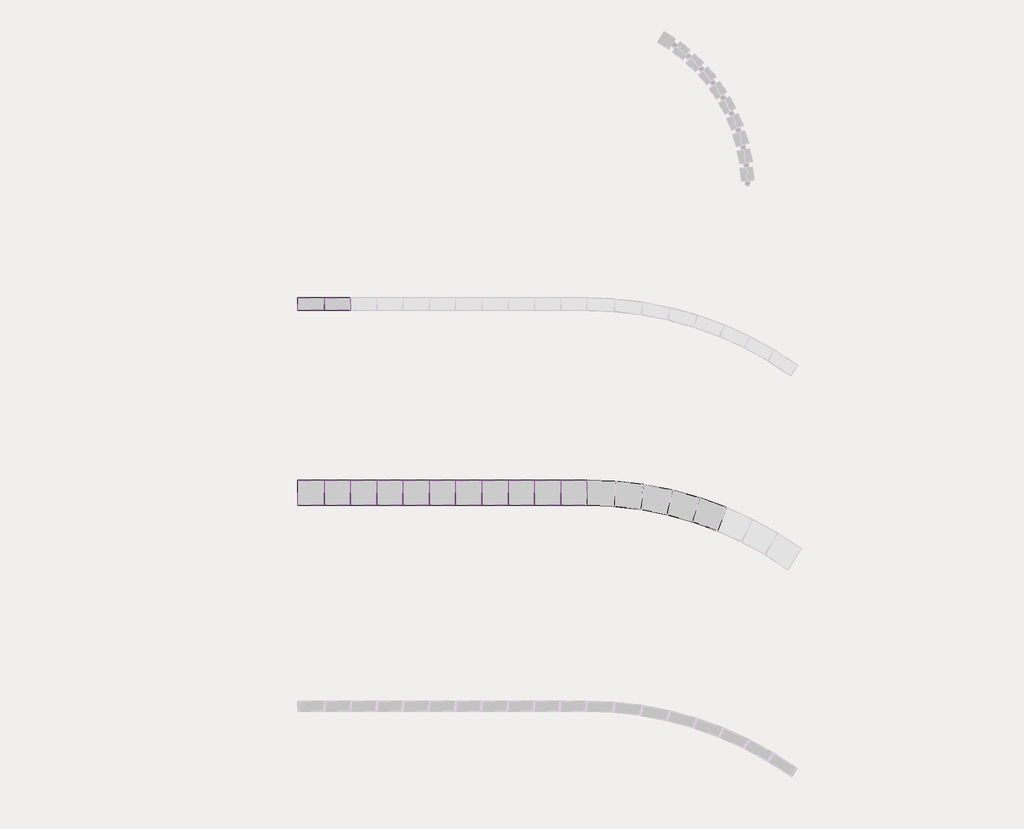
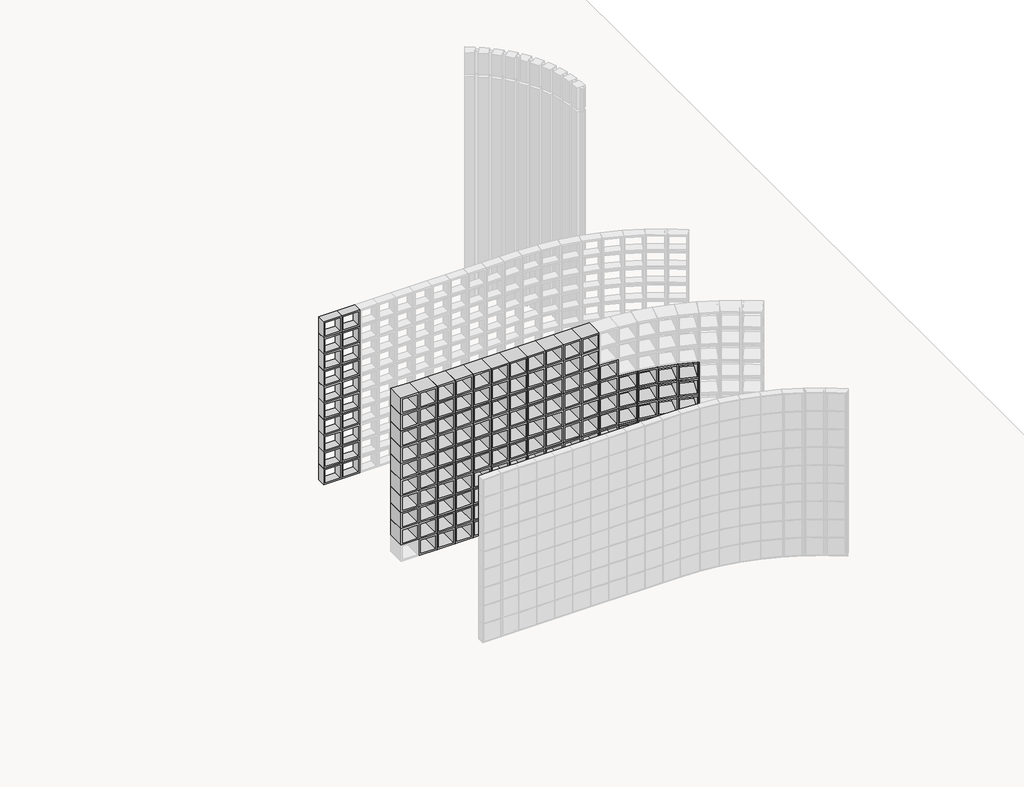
# One storey, part 7 of 15: 165 plates.
"""IFC4 building model written with IfcOpenShell, lengths in millimetres."""

from ifc_helpers import new_model, si_unit, origin, place, context, project, spatial, transform, mapped, element, save
from components import plate_64430686, plate_8b2e527d, plate_db6f8793

model = new_model("IFC4")

# Units and contexts
model_context = context("Model", 3, world=origin())
ifc_project = project(units=[si_unit("LENGTHUNIT", "METRE", prefix="MILLI")], contexts=[model_context])

# Site, building, storey
site = spatial("IfcSite", under=ifc_project)
building = spatial("IfcBuilding", under=site)
storey = spatial("IfcBuildingStorey", under=building, Name="TÉRREO", Elevation=0.0)

# Plates
placement = place(None, origin())
plate_shape = plate_64430686(model_context)
element("IfcPlate", 1, ObjectType="pnl - ELEMENTO VAZADO QUADRICULADO : e = 10", at=placement, inside=storey, context=model_context, shape_type="MappedRepresentation", body=[
    mapped(plate_shape, transform((43696.6577523, 6116.9852574, 0.0), x_axis=(1.0, 0.0, 0.0), y_axis=(0.0, 1.0, 0.0), z_axis=(0.0, 0.0, 1.0))),
])
element("IfcPlate", 2, ObjectType="pnl - ELEMENTO VAZADO QUADRICULADO : e = 10", at=placement, inside=storey, context=model_context, shape_type="MappedRepresentation", body=[
    mapped(plate_shape, transform((43905.7486614, 6116.9852574, 0.0), x_axis=(1.0, 0.0, 0.0), y_axis=(0.0, 1.0, 0.0), z_axis=(0.0, 0.0, 1.0))),
])
element("IfcPlate", 3, ObjectType="pnl - ELEMENTO VAZADO QUADRICULADO : e = 10", at=placement, inside=storey, context=model_context, shape_type="MappedRepresentation", body=[
    mapped(plate_shape, transform((43696.6577523, 6116.9852574, 200.0), x_axis=(1.0, 0.0, 0.0), y_axis=(0.0, 1.0, 0.0), z_axis=(0.0, 0.0, 1.0))),
])
element("IfcPlate", 4, ObjectType="pnl - ELEMENTO VAZADO QUADRICULADO : e = 10", at=placement, inside=storey, context=model_context, shape_type="MappedRepresentation", body=[
    mapped(plate_shape, transform((43905.7486614, 6116.9852574, 200.0), x_axis=(1.0, 0.0, 0.0), y_axis=(0.0, 1.0, 0.0), z_axis=(0.0, 0.0, 1.0))),
])
element("IfcPlate", 5, ObjectType="pnl - ELEMENTO VAZADO QUADRICULADO : e = 10", at=placement, inside=storey, context=model_context, shape_type="MappedRepresentation", body=[
    mapped(plate_shape, transform((43696.6577523, 6116.9852574, 400.0), x_axis=(1.0, 0.0, 0.0), y_axis=(0.0, 1.0, 0.0), z_axis=(0.0, 0.0, 1.0))),
])
element("IfcPlate", 6, ObjectType="pnl - ELEMENTO VAZADO QUADRICULADO : e = 10", at=placement, inside=storey, context=model_context, shape_type="MappedRepresentation", body=[
    mapped(plate_shape, transform((43905.7486614, 6116.9852574, 400.0), x_axis=(1.0, 0.0, 0.0), y_axis=(0.0, 1.0, 0.0), z_axis=(0.0, 0.0, 1.0))),
])
element("IfcPlate", 7, ObjectType="pnl - ELEMENTO VAZADO QUADRICULADO : e = 10", at=placement, inside=storey, context=model_context, shape_type="MappedRepresentation", body=[
    mapped(plate_shape, transform((43696.6577523, 6116.9852574, 600.0), x_axis=(1.0, 0.0, 0.0), y_axis=(0.0, 1.0, 0.0), z_axis=(0.0, 0.0, 1.0))),
])
element("IfcPlate", 8, ObjectType="pnl - ELEMENTO VAZADO QUADRICULADO : e = 10", at=placement, inside=storey, context=model_context, shape_type="MappedRepresentation", body=[
    mapped(plate_shape, transform((43905.7486614, 6116.9852574, 600.0), x_axis=(1.0, 0.0, 0.0), y_axis=(0.0, 1.0, 0.0), z_axis=(0.0, 0.0, 1.0))),
])
element("IfcPlate", 9, ObjectType="pnl - ELEMENTO VAZADO QUADRICULADO : e = 10", at=placement, inside=storey, context=model_context, shape_type="MappedRepresentation", body=[
    mapped(plate_shape, transform((43696.6577523, 6116.9852574, 800.0), x_axis=(1.0, 0.0, 0.0), y_axis=(0.0, 1.0, 0.0), z_axis=(0.0, 0.0, 1.0))),
])
element("IfcPlate", 10, ObjectType="pnl - ELEMENTO VAZADO QUADRICULADO : e = 10", at=placement, inside=storey, context=model_context, shape_type="MappedRepresentation", body=[
    mapped(plate_shape, transform((43905.7486614, 6116.9852574, 800.0), x_axis=(1.0, 0.0, 0.0), y_axis=(0.0, 1.0, 0.0), z_axis=(0.0, 0.0, 1.0))),
])
element("IfcPlate", 11, ObjectType="pnl - ELEMENTO VAZADO QUADRICULADO : e = 10", at=placement, inside=storey, context=model_context, shape_type="MappedRepresentation", body=[
    mapped(plate_shape, transform((43696.6577523, 6116.9852574, 1000.0), x_axis=(1.0, 0.0, 0.0), y_axis=(0.0, 1.0, 0.0), z_axis=(0.0, 0.0, 1.0))),
])
element("IfcPlate", 12, ObjectType="pnl - ELEMENTO VAZADO QUADRICULADO : e = 10", at=placement, inside=storey, context=model_context, shape_type="MappedRepresentation", body=[
    mapped(plate_shape, transform((43905.7486614, 6116.9852574, 1000.0), x_axis=(1.0, 0.0, 0.0), y_axis=(0.0, 1.0, 0.0), z_axis=(0.0, 0.0, 1.0))),
])
element("IfcPlate", 13, ObjectType="pnl - ELEMENTO VAZADO QUADRICULADO : e = 10", at=placement, inside=storey, context=model_context, shape_type="MappedRepresentation", body=[
    mapped(plate_shape, transform((43696.6577523, 6116.9852574, 1200.0), x_axis=(1.0, 0.0, 0.0), y_axis=(0.0, 1.0, 0.0), z_axis=(0.0, 0.0, 1.0))),
])
element("IfcPlate", 14, ObjectType="pnl - ELEMENTO VAZADO QUADRICULADO : e = 10", at=placement, inside=storey, context=model_context, shape_type="MappedRepresentation", body=[
    mapped(plate_shape, transform((43905.7486614, 6116.9852574, 1200.0), x_axis=(1.0, 0.0, 0.0), y_axis=(0.0, 1.0, 0.0), z_axis=(0.0, 0.0, 1.0))),
])
element("IfcPlate", 15, ObjectType="pnl - ELEMENTO VAZADO QUADRICULADO : e = 10", at=placement, inside=storey, context=model_context, shape_type="MappedRepresentation", body=[
    mapped(plate_shape, transform((43696.6577523, 6116.9852574, 1400.0), x_axis=(1.0, 0.0, 0.0), y_axis=(0.0, 1.0, 0.0), z_axis=(0.0, 0.0, 1.0))),
])
element("IfcPlate", 16, ObjectType="pnl - ELEMENTO VAZADO QUADRICULADO : e = 10", at=placement, inside=storey, context=model_context, shape_type="MappedRepresentation", body=[
    mapped(plate_shape, transform((43905.7486614, 6116.9852574, 1400.0), x_axis=(1.0, 0.0, 0.0), y_axis=(0.0, 1.0, 0.0), z_axis=(0.0, 0.0, 1.0))),
])
element("IfcPlate", 17, ObjectType="pnl - ELEMENTO VAZADO QUADRICULADO : e = 10", at=placement, inside=storey, context=model_context, shape_type="MappedRepresentation", body=[
    mapped(plate_shape, transform((43696.6577523, 6116.9852574, 1600.0), x_axis=(1.0, 0.0, 0.0), y_axis=(0.0, 1.0, 0.0), z_axis=(0.0, 0.0, 1.0))),
])
element("IfcPlate", 18, ObjectType="pnl - ELEMENTO VAZADO QUADRICULADO : e = 10", at=placement, inside=storey, context=model_context, shape_type="MappedRepresentation", body=[
    mapped(plate_shape, transform((43905.7486614, 6116.9852574, 1600.0), x_axis=(1.0, 0.0, 0.0), y_axis=(0.0, 1.0, 0.0), z_axis=(0.0, 0.0, 1.0))),
])
element("IfcPlate", 19, ObjectType="pnl - ELEMENTO VAZADO QUADRICULADO : e = 10", at=placement, inside=storey, context=model_context, shape_type="MappedRepresentation", body=[
    mapped(plate_shape, transform((43696.6577523, 6116.9852574, 1800.0), x_axis=(1.0, 0.0, 0.0), y_axis=(0.0, 1.0, 0.0), z_axis=(0.0, 0.0, 1.0))),
])
element("IfcPlate", 20, ObjectType="pnl - ELEMENTO VAZADO QUADRICULADO : e = 10", at=placement, inside=storey, context=model_context, shape_type="MappedRepresentation", body=[
    mapped(plate_shape, transform((43905.7486614, 6116.9852574, 1800.0), x_axis=(1.0, 0.0, 0.0), y_axis=(0.0, 1.0, 0.0), z_axis=(0.0, 0.0, 1.0))),
])
plate_2_shape = plate_8b2e527d(model_context)
element("IfcPlate", 21, ObjectType="pnl - ELEMENTO VAZADO QUADRICULADO : e = 20", at=placement, inside=storey, context=model_context, shape_type="MappedRepresentation", body=[
    mapped(plate_2_shape, transform((43905.7486614, 4616.9852574, 0.0), x_axis=(1.0, 0.0, 0.0), y_axis=(0.0, 1.0, 0.0), z_axis=(0.0, 0.0, 1.0))),
])
element("IfcPlate", 22, ObjectType="pnl - ELEMENTO VAZADO QUADRICULADO : e = 20", at=placement, inside=storey, context=model_context, shape_type="MappedRepresentation", body=[
    mapped(plate_2_shape, transform((44114.8395705, 4616.9852574, 0.0), x_axis=(1.0, 0.0, 0.0), y_axis=(0.0, 1.0, 0.0), z_axis=(0.0, 0.0, 1.0))),
])
element("IfcPlate", 23, ObjectType="pnl - ELEMENTO VAZADO QUADRICULADO : e = 20", at=placement, inside=storey, context=model_context, shape_type="MappedRepresentation", body=[
    mapped(plate_2_shape, transform((44323.9304796, 4616.9852574, 0.0), x_axis=(1.0, 0.0, 0.0), y_axis=(0.0, 1.0, 0.0), z_axis=(0.0, 0.0, 1.0))),
])
element("IfcPlate", 24, ObjectType="pnl - ELEMENTO VAZADO QUADRICULADO : e = 20", at=placement, inside=storey, context=model_context, shape_type="MappedRepresentation", body=[
    mapped(plate_2_shape, transform((44533.0213887, 4616.9852574, 0.0), x_axis=(1.0, 0.0, 0.0), y_axis=(0.0, 1.0, 0.0), z_axis=(0.0, 0.0, 1.0))),
])
element("IfcPlate", 25, ObjectType="pnl - ELEMENTO VAZADO QUADRICULADO : e = 20", at=placement, inside=storey, context=model_context, shape_type="MappedRepresentation", body=[
    mapped(plate_2_shape, transform((44742.1122977, 4616.9852574, 0.0), x_axis=(1.0, 0.0, 0.0), y_axis=(0.0, 1.0, 0.0), z_axis=(0.0, 0.0, 1.0))),
])
element("IfcPlate", 26, ObjectType="pnl - ELEMENTO VAZADO QUADRICULADO : e = 20", at=placement, inside=storey, context=model_context, shape_type="MappedRepresentation", body=[
    mapped(plate_2_shape, transform((44951.2032068, 4616.9852574, 0.0), x_axis=(1.0, 0.0, 0.0), y_axis=(0.0, 1.0, 0.0), z_axis=(0.0, 0.0, 1.0))),
])
element("IfcPlate", 27, ObjectType="pnl - ELEMENTO VAZADO QUADRICULADO : e = 20", at=placement, inside=storey, context=model_context, shape_type="MappedRepresentation", body=[
    mapped(plate_2_shape, transform((45160.2941159, 4616.9852574, 0.0), x_axis=(1.0, 0.0, 0.0), y_axis=(0.0, 1.0, 0.0), z_axis=(0.0, 0.0, 1.0))),
])
element("IfcPlate", 28, ObjectType="pnl - ELEMENTO VAZADO QUADRICULADO : e = 20", at=placement, inside=storey, context=model_context, shape_type="MappedRepresentation", body=[
    mapped(plate_2_shape, transform((45369.385025, 4616.9852574, 0.0), x_axis=(1.0, 0.0, 0.0), y_axis=(0.0, 1.0, 0.0), z_axis=(0.0, 0.0, 1.0))),
])
element("IfcPlate", 29, ObjectType="pnl - ELEMENTO VAZADO QUADRICULADO : e = 20", at=placement, inside=storey, context=model_context, shape_type="MappedRepresentation", body=[
    mapped(plate_2_shape, transform((45578.4759341, 4616.9852574, 0.0), x_axis=(1.0, 0.0, 0.0), y_axis=(0.0, 1.0, 0.0), z_axis=(0.0, 0.0, 1.0))),
])
element("IfcPlate", 30, ObjectType="pnl - ELEMENTO VAZADO QUADRICULADO : e = 20", at=placement, inside=storey, context=model_context, shape_type="MappedRepresentation", body=[
    mapped(plate_2_shape, transform((45787.5668432, 4616.9852574, 0.0), x_axis=(1.0, 0.0, 0.0), y_axis=(0.0, 1.0, 0.0), z_axis=(0.0, 0.0, 1.0))),
])
element("IfcPlate", 31, ObjectType="pnl - ELEMENTO VAZADO QUADRICULADO : e = 20", at=placement, inside=storey, context=model_context, shape_type="MappedRepresentation", body=[
    mapped(plate_2_shape, transform((43696.6577523, 4616.9852574, 200.0), x_axis=(1.0, 0.0, 0.0), y_axis=(0.0, 1.0, 0.0), z_axis=(0.0, 0.0, 1.0))),
])
element("IfcPlate", 32, ObjectType="pnl - ELEMENTO VAZADO QUADRICULADO : e = 20", at=placement, inside=storey, context=model_context, shape_type="MappedRepresentation", body=[
    mapped(plate_2_shape, transform((43905.7486614, 4616.9852574, 200.0), x_axis=(1.0, 0.0, 0.0), y_axis=(0.0, 1.0, 0.0), z_axis=(0.0, 0.0, 1.0))),
])
element("IfcPlate", 33, ObjectType="pnl - ELEMENTO VAZADO QUADRICULADO : e = 20", at=placement, inside=storey, context=model_context, shape_type="MappedRepresentation", body=[
    mapped(plate_2_shape, transform((44114.8395705, 4616.9852574, 200.0), x_axis=(1.0, 0.0, 0.0), y_axis=(0.0, 1.0, 0.0), z_axis=(0.0, 0.0, 1.0))),
])
element("IfcPlate", 34, ObjectType="pnl - ELEMENTO VAZADO QUADRICULADO : e = 20", at=placement, inside=storey, context=model_context, shape_type="MappedRepresentation", body=[
    mapped(plate_2_shape, transform((44323.9304796, 4616.9852574, 200.0), x_axis=(1.0, 0.0, 0.0), y_axis=(0.0, 1.0, 0.0), z_axis=(0.0, 0.0, 1.0))),
])
element("IfcPlate", 35, ObjectType="pnl - ELEMENTO VAZADO QUADRICULADO : e = 20", at=placement, inside=storey, context=model_context, shape_type="MappedRepresentation", body=[
    mapped(plate_2_shape, transform((44533.0213887, 4616.9852574, 200.0), x_axis=(1.0, 0.0, 0.0), y_axis=(0.0, 1.0, 0.0), z_axis=(0.0, 0.0, 1.0))),
])
element("IfcPlate", 36, ObjectType="pnl - ELEMENTO VAZADO QUADRICULADO : e = 20", at=placement, inside=storey, context=model_context, shape_type="MappedRepresentation", body=[
    mapped(plate_2_shape, transform((44742.1122977, 4616.9852574, 200.0), x_axis=(1.0, 0.0, 0.0), y_axis=(0.0, 1.0, 0.0), z_axis=(0.0, 0.0, 1.0))),
])
element("IfcPlate", 37, ObjectType="pnl - ELEMENTO VAZADO QUADRICULADO : e = 20", at=placement, inside=storey, context=model_context, shape_type="MappedRepresentation", body=[
    mapped(plate_2_shape, transform((44951.2032068, 4616.9852574, 200.0), x_axis=(1.0, 0.0, 0.0), y_axis=(0.0, 1.0, 0.0), z_axis=(0.0, 0.0, 1.0))),
])
element("IfcPlate", 38, ObjectType="pnl - ELEMENTO VAZADO QUADRICULADO : e = 20", at=placement, inside=storey, context=model_context, shape_type="MappedRepresentation", body=[
    mapped(plate_2_shape, transform((45160.2941159, 4616.9852574, 200.0), x_axis=(1.0, 0.0, 0.0), y_axis=(0.0, 1.0, 0.0), z_axis=(0.0, 0.0, 1.0))),
])
element("IfcPlate", 39, ObjectType="pnl - ELEMENTO VAZADO QUADRICULADO : e = 20", at=placement, inside=storey, context=model_context, shape_type="MappedRepresentation", body=[
    mapped(plate_2_shape, transform((45369.385025, 4616.9852574, 200.0), x_axis=(1.0, 0.0, 0.0), y_axis=(0.0, 1.0, 0.0), z_axis=(0.0, 0.0, 1.0))),
])
element("IfcPlate", 40, ObjectType="pnl - ELEMENTO VAZADO QUADRICULADO : e = 20", at=placement, inside=storey, context=model_context, shape_type="MappedRepresentation", body=[
    mapped(plate_2_shape, transform((45578.4759341, 4616.9852574, 200.0), x_axis=(1.0, 0.0, 0.0), y_axis=(0.0, 1.0, 0.0), z_axis=(0.0, 0.0, 1.0))),
])
element("IfcPlate", 41, ObjectType="pnl - ELEMENTO VAZADO QUADRICULADO : e = 20", at=placement, inside=storey, context=model_context, shape_type="MappedRepresentation", body=[
    mapped(plate_2_shape, transform((45787.5668432, 4616.9852574, 200.0), x_axis=(1.0, 0.0, 0.0), y_axis=(0.0, 1.0, 0.0), z_axis=(0.0, 0.0, 1.0))),
])
element("IfcPlate", 42, ObjectType="pnl - ELEMENTO VAZADO QUADRICULADO : e = 20", at=placement, inside=storey, context=model_context, shape_type="MappedRepresentation", body=[
    mapped(plate_2_shape, transform((43696.6577523, 4616.9852574, 400.0), x_axis=(1.0, 0.0, 0.0), y_axis=(0.0, 1.0, 0.0), z_axis=(0.0, 0.0, 1.0))),
])
element("IfcPlate", 43, ObjectType="pnl - ELEMENTO VAZADO QUADRICULADO : e = 20", at=placement, inside=storey, context=model_context, shape_type="MappedRepresentation", body=[
    mapped(plate_2_shape, transform((43905.7486614, 4616.9852574, 400.0), x_axis=(1.0, 0.0, 0.0), y_axis=(0.0, 1.0, 0.0), z_axis=(0.0, 0.0, 1.0))),
])
element("IfcPlate", 44, ObjectType="pnl - ELEMENTO VAZADO QUADRICULADO : e = 20", at=placement, inside=storey, context=model_context, shape_type="MappedRepresentation", body=[
    mapped(plate_2_shape, transform((44114.8395705, 4616.9852574, 400.0), x_axis=(1.0, 0.0, 0.0), y_axis=(0.0, 1.0, 0.0), z_axis=(0.0, 0.0, 1.0))),
])
element("IfcPlate", 45, ObjectType="pnl - ELEMENTO VAZADO QUADRICULADO : e = 20", at=placement, inside=storey, context=model_context, shape_type="MappedRepresentation", body=[
    mapped(plate_2_shape, transform((44323.9304796, 4616.9852574, 400.0), x_axis=(1.0, 0.0, 0.0), y_axis=(0.0, 1.0, 0.0), z_axis=(0.0, 0.0, 1.0))),
])
element("IfcPlate", 46, ObjectType="pnl - ELEMENTO VAZADO QUADRICULADO : e = 20", at=placement, inside=storey, context=model_context, shape_type="MappedRepresentation", body=[
    mapped(plate_2_shape, transform((44533.0213887, 4616.9852574, 400.0), x_axis=(1.0, 0.0, 0.0), y_axis=(0.0, 1.0, 0.0), z_axis=(0.0, 0.0, 1.0))),
])
element("IfcPlate", 47, ObjectType="pnl - ELEMENTO VAZADO QUADRICULADO : e = 20", at=placement, inside=storey, context=model_context, shape_type="MappedRepresentation", body=[
    mapped(plate_2_shape, transform((44742.1122977, 4616.9852574, 400.0), x_axis=(1.0, 0.0, 0.0), y_axis=(0.0, 1.0, 0.0), z_axis=(0.0, 0.0, 1.0))),
])
element("IfcPlate", 48, ObjectType="pnl - ELEMENTO VAZADO QUADRICULADO : e = 20", at=placement, inside=storey, context=model_context, shape_type="MappedRepresentation", body=[
    mapped(plate_2_shape, transform((44951.2032068, 4616.9852574, 400.0), x_axis=(1.0, 0.0, 0.0), y_axis=(0.0, 1.0, 0.0), z_axis=(0.0, 0.0, 1.0))),
])
element("IfcPlate", 49, ObjectType="pnl - ELEMENTO VAZADO QUADRICULADO : e = 20", at=placement, inside=storey, context=model_context, shape_type="MappedRepresentation", body=[
    mapped(plate_2_shape, transform((45160.2941159, 4616.9852574, 400.0), x_axis=(1.0, 0.0, 0.0), y_axis=(0.0, 1.0, 0.0), z_axis=(0.0, 0.0, 1.0))),
])
element("IfcPlate", 50, ObjectType="pnl - ELEMENTO VAZADO QUADRICULADO : e = 20", at=placement, inside=storey, context=model_context, shape_type="MappedRepresentation", body=[
    mapped(plate_2_shape, transform((45369.385025, 4616.9852574, 400.0), x_axis=(1.0, 0.0, 0.0), y_axis=(0.0, 1.0, 0.0), z_axis=(0.0, 0.0, 1.0))),
])
element("IfcPlate", 51, ObjectType="pnl - ELEMENTO VAZADO QUADRICULADO : e = 20", at=placement, inside=storey, context=model_context, shape_type="MappedRepresentation", body=[
    mapped(plate_2_shape, transform((45578.4759341, 4616.9852574, 400.0), x_axis=(1.0, 0.0, 0.0), y_axis=(0.0, 1.0, 0.0), z_axis=(0.0, 0.0, 1.0))),
])
element("IfcPlate", 52, ObjectType="pnl - ELEMENTO VAZADO QUADRICULADO : e = 20", at=placement, inside=storey, context=model_context, shape_type="MappedRepresentation", body=[
    mapped(plate_2_shape, transform((45787.5668432, 4616.9852574, 400.0), x_axis=(1.0, 0.0, 0.0), y_axis=(0.0, 1.0, 0.0), z_axis=(0.0, 0.0, 1.0))),
])
element("IfcPlate", 53, ObjectType="pnl - ELEMENTO VAZADO QUADRICULADO : e = 20", at=placement, inside=storey, context=model_context, shape_type="MappedRepresentation", body=[
    mapped(plate_2_shape, transform((43696.6577523, 4616.9852574, 600.0), x_axis=(1.0, 0.0, 0.0), y_axis=(0.0, 1.0, 0.0), z_axis=(0.0, 0.0, 1.0))),
])
element("IfcPlate", 54, ObjectType="pnl - ELEMENTO VAZADO QUADRICULADO : e = 20", at=placement, inside=storey, context=model_context, shape_type="MappedRepresentation", body=[
    mapped(plate_2_shape, transform((43905.7486614, 4616.9852574, 600.0), x_axis=(1.0, 0.0, 0.0), y_axis=(0.0, 1.0, 0.0), z_axis=(0.0, 0.0, 1.0))),
])
element("IfcPlate", 55, ObjectType="pnl - ELEMENTO VAZADO QUADRICULADO : e = 20", at=placement, inside=storey, context=model_context, shape_type="MappedRepresentation", body=[
    mapped(plate_2_shape, transform((44114.8395705, 4616.9852574, 600.0), x_axis=(1.0, 0.0, 0.0), y_axis=(0.0, 1.0, 0.0), z_axis=(0.0, 0.0, 1.0))),
])
element("IfcPlate", 56, ObjectType="pnl - ELEMENTO VAZADO QUADRICULADO : e = 20", at=placement, inside=storey, context=model_context, shape_type="MappedRepresentation", body=[
    mapped(plate_2_shape, transform((44323.9304796, 4616.9852574, 600.0), x_axis=(1.0, 0.0, 0.0), y_axis=(0.0, 1.0, 0.0), z_axis=(0.0, 0.0, 1.0))),
])
element("IfcPlate", 57, ObjectType="pnl - ELEMENTO VAZADO QUADRICULADO : e = 20", at=placement, inside=storey, context=model_context, shape_type="MappedRepresentation", body=[
    mapped(plate_2_shape, transform((44533.0213887, 4616.9852574, 600.0), x_axis=(1.0, 0.0, 0.0), y_axis=(0.0, 1.0, 0.0), z_axis=(0.0, 0.0, 1.0))),
])
element("IfcPlate", 58, ObjectType="pnl - ELEMENTO VAZADO QUADRICULADO : e = 20", at=placement, inside=storey, context=model_context, shape_type="MappedRepresentation", body=[
    mapped(plate_2_shape, transform((44742.1122977, 4616.9852574, 600.0), x_axis=(1.0, 0.0, 0.0), y_axis=(0.0, 1.0, 0.0), z_axis=(0.0, 0.0, 1.0))),
])
element("IfcPlate", 59, ObjectType="pnl - ELEMENTO VAZADO QUADRICULADO : e = 20", at=placement, inside=storey, context=model_context, shape_type="MappedRepresentation", body=[
    mapped(plate_2_shape, transform((44951.2032068, 4616.9852574, 600.0), x_axis=(1.0, 0.0, 0.0), y_axis=(0.0, 1.0, 0.0), z_axis=(0.0, 0.0, 1.0))),
])
element("IfcPlate", 60, ObjectType="pnl - ELEMENTO VAZADO QUADRICULADO : e = 20", at=placement, inside=storey, context=model_context, shape_type="MappedRepresentation", body=[
    mapped(plate_2_shape, transform((45160.2941159, 4616.9852574, 600.0), x_axis=(1.0, 0.0, 0.0), y_axis=(0.0, 1.0, 0.0), z_axis=(0.0, 0.0, 1.0))),
])
element("IfcPlate", 61, ObjectType="pnl - ELEMENTO VAZADO QUADRICULADO : e = 20", at=placement, inside=storey, context=model_context, shape_type="MappedRepresentation", body=[
    mapped(plate_2_shape, transform((45369.385025, 4616.9852574, 600.0), x_axis=(1.0, 0.0, 0.0), y_axis=(0.0, 1.0, 0.0), z_axis=(0.0, 0.0, 1.0))),
])
element("IfcPlate", 62, ObjectType="pnl - ELEMENTO VAZADO QUADRICULADO : e = 20", at=placement, inside=storey, context=model_context, shape_type="MappedRepresentation", body=[
    mapped(plate_2_shape, transform((45578.4759341, 4616.9852574, 600.0), x_axis=(1.0, 0.0, 0.0), y_axis=(0.0, 1.0, 0.0), z_axis=(0.0, 0.0, 1.0))),
])
element("IfcPlate", 63, ObjectType="pnl - ELEMENTO VAZADO QUADRICULADO : e = 20", at=placement, inside=storey, context=model_context, shape_type="MappedRepresentation", body=[
    mapped(plate_2_shape, transform((45787.5668432, 4616.9852574, 600.0), x_axis=(1.0, 0.0, 0.0), y_axis=(0.0, 1.0, 0.0), z_axis=(0.0, 0.0, 1.0))),
])
element("IfcPlate", 64, ObjectType="pnl - ELEMENTO VAZADO QUADRICULADO : e = 20", at=placement, inside=storey, context=model_context, shape_type="MappedRepresentation", body=[
    mapped(plate_2_shape, transform((43696.6577523, 4616.9852574, 800.0), x_axis=(1.0, 0.0, 0.0), y_axis=(0.0, 1.0, 0.0), z_axis=(0.0, 0.0, 1.0))),
])
element("IfcPlate", 65, ObjectType="pnl - ELEMENTO VAZADO QUADRICULADO : e = 20", at=placement, inside=storey, context=model_context, shape_type="MappedRepresentation", body=[
    mapped(plate_2_shape, transform((43905.7486614, 4616.9852574, 800.0), x_axis=(1.0, 0.0, 0.0), y_axis=(0.0, 1.0, 0.0), z_axis=(0.0, 0.0, 1.0))),
])
element("IfcPlate", 66, ObjectType="pnl - ELEMENTO VAZADO QUADRICULADO : e = 20", at=placement, inside=storey, context=model_context, shape_type="MappedRepresentation", body=[
    mapped(plate_2_shape, transform((44114.8395705, 4616.9852574, 800.0), x_axis=(1.0, 0.0, 0.0), y_axis=(0.0, 1.0, 0.0), z_axis=(0.0, 0.0, 1.0))),
])
element("IfcPlate", 67, ObjectType="pnl - ELEMENTO VAZADO QUADRICULADO : e = 20", at=placement, inside=storey, context=model_context, shape_type="MappedRepresentation", body=[
    mapped(plate_2_shape, transform((44323.9304796, 4616.9852574, 800.0), x_axis=(1.0, 0.0, 0.0), y_axis=(0.0, 1.0, 0.0), z_axis=(0.0, 0.0, 1.0))),
])
element("IfcPlate", 68, ObjectType="pnl - ELEMENTO VAZADO QUADRICULADO : e = 20", at=placement, inside=storey, context=model_context, shape_type="MappedRepresentation", body=[
    mapped(plate_2_shape, transform((44533.0213887, 4616.9852574, 800.0), x_axis=(1.0, 0.0, 0.0), y_axis=(0.0, 1.0, 0.0), z_axis=(0.0, 0.0, 1.0))),
])
element("IfcPlate", 69, ObjectType="pnl - ELEMENTO VAZADO QUADRICULADO : e = 20", at=placement, inside=storey, context=model_context, shape_type="MappedRepresentation", body=[
    mapped(plate_2_shape, transform((44742.1122977, 4616.9852574, 800.0), x_axis=(1.0, 0.0, 0.0), y_axis=(0.0, 1.0, 0.0), z_axis=(0.0, 0.0, 1.0))),
])
element("IfcPlate", 70, ObjectType="pnl - ELEMENTO VAZADO QUADRICULADO : e = 20", at=placement, inside=storey, context=model_context, shape_type="MappedRepresentation", body=[
    mapped(plate_2_shape, transform((44951.2032068, 4616.9852574, 800.0), x_axis=(1.0, 0.0, 0.0), y_axis=(0.0, 1.0, 0.0), z_axis=(0.0, 0.0, 1.0))),
])
element("IfcPlate", 71, ObjectType="pnl - ELEMENTO VAZADO QUADRICULADO : e = 20", at=placement, inside=storey, context=model_context, shape_type="MappedRepresentation", body=[
    mapped(plate_2_shape, transform((45160.2941159, 4616.9852574, 800.0), x_axis=(1.0, 0.0, 0.0), y_axis=(0.0, 1.0, 0.0), z_axis=(0.0, 0.0, 1.0))),
])
element("IfcPlate", 72, ObjectType="pnl - ELEMENTO VAZADO QUADRICULADO : e = 20", at=placement, inside=storey, context=model_context, shape_type="MappedRepresentation", body=[
    mapped(plate_2_shape, transform((45369.385025, 4616.9852574, 800.0), x_axis=(1.0, 0.0, 0.0), y_axis=(0.0, 1.0, 0.0), z_axis=(0.0, 0.0, 1.0))),
])
element("IfcPlate", 73, ObjectType="pnl - ELEMENTO VAZADO QUADRICULADO : e = 20", at=placement, inside=storey, context=model_context, shape_type="MappedRepresentation", body=[
    mapped(plate_2_shape, transform((45578.4759341, 4616.9852574, 800.0), x_axis=(1.0, 0.0, 0.0), y_axis=(0.0, 1.0, 0.0), z_axis=(0.0, 0.0, 1.0))),
])
element("IfcPlate", 74, ObjectType="pnl - ELEMENTO VAZADO QUADRICULADO : e = 20", at=placement, inside=storey, context=model_context, shape_type="MappedRepresentation", body=[
    mapped(plate_2_shape, transform((45787.5668432, 4616.9852574, 800.0), x_axis=(1.0, 0.0, 0.0), y_axis=(0.0, 1.0, 0.0), z_axis=(0.0, 0.0, 1.0))),
])
element("IfcPlate", 75, ObjectType="pnl - ELEMENTO VAZADO QUADRICULADO : e = 20", at=placement, inside=storey, context=model_context, shape_type="MappedRepresentation", body=[
    mapped(plate_2_shape, transform((43696.6577523, 4616.9852574, 1000.0), x_axis=(1.0, 0.0, 0.0), y_axis=(0.0, 1.0, 0.0), z_axis=(0.0, 0.0, 1.0))),
])
element("IfcPlate", 76, ObjectType="pnl - ELEMENTO VAZADO QUADRICULADO : e = 20", at=placement, inside=storey, context=model_context, shape_type="MappedRepresentation", body=[
    mapped(plate_2_shape, transform((43905.7486614, 4616.9852574, 1000.0), x_axis=(1.0, 0.0, 0.0), y_axis=(0.0, 1.0, 0.0), z_axis=(0.0, 0.0, 1.0))),
])
element("IfcPlate", 77, ObjectType="pnl - ELEMENTO VAZADO QUADRICULADO : e = 20", at=placement, inside=storey, context=model_context, shape_type="MappedRepresentation", body=[
    mapped(plate_2_shape, transform((44114.8395705, 4616.9852574, 1000.0), x_axis=(1.0, 0.0, 0.0), y_axis=(0.0, 1.0, 0.0), z_axis=(0.0, 0.0, 1.0))),
])
element("IfcPlate", 78, ObjectType="pnl - ELEMENTO VAZADO QUADRICULADO : e = 20", at=placement, inside=storey, context=model_context, shape_type="MappedRepresentation", body=[
    mapped(plate_2_shape, transform((44323.9304796, 4616.9852574, 1000.0), x_axis=(1.0, 0.0, 0.0), y_axis=(0.0, 1.0, 0.0), z_axis=(0.0, 0.0, 1.0))),
])
element("IfcPlate", 79, ObjectType="pnl - ELEMENTO VAZADO QUADRICULADO : e = 20", at=placement, inside=storey, context=model_context, shape_type="MappedRepresentation", body=[
    mapped(plate_2_shape, transform((44533.0213887, 4616.9852574, 1000.0), x_axis=(1.0, 0.0, 0.0), y_axis=(0.0, 1.0, 0.0), z_axis=(0.0, 0.0, 1.0))),
])
element("IfcPlate", 80, ObjectType="pnl - ELEMENTO VAZADO QUADRICULADO : e = 20", at=placement, inside=storey, context=model_context, shape_type="MappedRepresentation", body=[
    mapped(plate_2_shape, transform((44742.1122977, 4616.9852574, 1000.0), x_axis=(1.0, 0.0, 0.0), y_axis=(0.0, 1.0, 0.0), z_axis=(0.0, 0.0, 1.0))),
])
element("IfcPlate", 81, ObjectType="pnl - ELEMENTO VAZADO QUADRICULADO : e = 20", at=placement, inside=storey, context=model_context, shape_type="MappedRepresentation", body=[
    mapped(plate_2_shape, transform((44951.2032068, 4616.9852574, 1000.0), x_axis=(1.0, 0.0, 0.0), y_axis=(0.0, 1.0, 0.0), z_axis=(0.0, 0.0, 1.0))),
])
element("IfcPlate", 82, ObjectType="pnl - ELEMENTO VAZADO QUADRICULADO : e = 20", at=placement, inside=storey, context=model_context, shape_type="MappedRepresentation", body=[
    mapped(plate_2_shape, transform((45160.2941159, 4616.9852574, 1000.0), x_axis=(1.0, 0.0, 0.0), y_axis=(0.0, 1.0, 0.0), z_axis=(0.0, 0.0, 1.0))),
])
element("IfcPlate", 83, ObjectType="pnl - ELEMENTO VAZADO QUADRICULADO : e = 20", at=placement, inside=storey, context=model_context, shape_type="MappedRepresentation", body=[
    mapped(plate_2_shape, transform((45369.385025, 4616.9852574, 1000.0), x_axis=(1.0, 0.0, 0.0), y_axis=(0.0, 1.0, 0.0), z_axis=(0.0, 0.0, 1.0))),
])
element("IfcPlate", 84, ObjectType="pnl - ELEMENTO VAZADO QUADRICULADO : e = 20", at=placement, inside=storey, context=model_context, shape_type="MappedRepresentation", body=[
    mapped(plate_2_shape, transform((45578.4759341, 4616.9852574, 1000.0), x_axis=(1.0, 0.0, 0.0), y_axis=(0.0, 1.0, 0.0), z_axis=(0.0, 0.0, 1.0))),
])
element("IfcPlate", 85, ObjectType="pnl - ELEMENTO VAZADO QUADRICULADO : e = 20", at=placement, inside=storey, context=model_context, shape_type="MappedRepresentation", body=[
    mapped(plate_2_shape, transform((45787.5668432, 4616.9852574, 1000.0), x_axis=(1.0, 0.0, 0.0), y_axis=(0.0, 1.0, 0.0), z_axis=(0.0, 0.0, 1.0))),
])
element("IfcPlate", 86, ObjectType="pnl - ELEMENTO VAZADO QUADRICULADO : e = 20", at=placement, inside=storey, context=model_context, shape_type="MappedRepresentation", body=[
    mapped(plate_2_shape, transform((43696.6577523, 4616.9852574, 1200.0), x_axis=(1.0, 0.0, 0.0), y_axis=(0.0, 1.0, 0.0), z_axis=(0.0, 0.0, 1.0))),
])
element("IfcPlate", 87, ObjectType="pnl - ELEMENTO VAZADO QUADRICULADO : e = 20", at=placement, inside=storey, context=model_context, shape_type="MappedRepresentation", body=[
    mapped(plate_2_shape, transform((43905.7486614, 4616.9852574, 1200.0), x_axis=(1.0, 0.0, 0.0), y_axis=(0.0, 1.0, 0.0), z_axis=(0.0, 0.0, 1.0))),
])
element("IfcPlate", 88, ObjectType="pnl - ELEMENTO VAZADO QUADRICULADO : e = 20", at=placement, inside=storey, context=model_context, shape_type="MappedRepresentation", body=[
    mapped(plate_2_shape, transform((44114.8395705, 4616.9852574, 1200.0), x_axis=(1.0, 0.0, 0.0), y_axis=(0.0, 1.0, 0.0), z_axis=(0.0, 0.0, 1.0))),
])
element("IfcPlate", 89, ObjectType="pnl - ELEMENTO VAZADO QUADRICULADO : e = 20", at=placement, inside=storey, context=model_context, shape_type="MappedRepresentation", body=[
    mapped(plate_2_shape, transform((44323.9304796, 4616.9852574, 1200.0), x_axis=(1.0, 0.0, 0.0), y_axis=(0.0, 1.0, 0.0), z_axis=(0.0, 0.0, 1.0))),
])
element("IfcPlate", 90, ObjectType="pnl - ELEMENTO VAZADO QUADRICULADO : e = 20", at=placement, inside=storey, context=model_context, shape_type="MappedRepresentation", body=[
    mapped(plate_2_shape, transform((44533.0213887, 4616.9852574, 1200.0), x_axis=(1.0, 0.0, 0.0), y_axis=(0.0, 1.0, 0.0), z_axis=(0.0, 0.0, 1.0))),
])
element("IfcPlate", 91, ObjectType="pnl - ELEMENTO VAZADO QUADRICULADO : e = 20", at=placement, inside=storey, context=model_context, shape_type="MappedRepresentation", body=[
    mapped(plate_2_shape, transform((44742.1122977, 4616.9852574, 1200.0), x_axis=(1.0, 0.0, 0.0), y_axis=(0.0, 1.0, 0.0), z_axis=(0.0, 0.0, 1.0))),
])
element("IfcPlate", 92, ObjectType="pnl - ELEMENTO VAZADO QUADRICULADO : e = 20", at=placement, inside=storey, context=model_context, shape_type="MappedRepresentation", body=[
    mapped(plate_2_shape, transform((44951.2032068, 4616.9852574, 1200.0), x_axis=(1.0, 0.0, 0.0), y_axis=(0.0, 1.0, 0.0), z_axis=(0.0, 0.0, 1.0))),
])
element("IfcPlate", 93, ObjectType="pnl - ELEMENTO VAZADO QUADRICULADO : e = 20", at=placement, inside=storey, context=model_context, shape_type="MappedRepresentation", body=[
    mapped(plate_2_shape, transform((45160.2941159, 4616.9852574, 1200.0), x_axis=(1.0, 0.0, 0.0), y_axis=(0.0, 1.0, 0.0), z_axis=(0.0, 0.0, 1.0))),
])
element("IfcPlate", 94, ObjectType="pnl - ELEMENTO VAZADO QUADRICULADO : e = 20", at=placement, inside=storey, context=model_context, shape_type="MappedRepresentation", body=[
    mapped(plate_2_shape, transform((45369.385025, 4616.9852574, 1200.0), x_axis=(1.0, 0.0, 0.0), y_axis=(0.0, 1.0, 0.0), z_axis=(0.0, 0.0, 1.0))),
])
element("IfcPlate", 95, ObjectType="pnl - ELEMENTO VAZADO QUADRICULADO : e = 20", at=placement, inside=storey, context=model_context, shape_type="MappedRepresentation", body=[
    mapped(plate_2_shape, transform((45578.4759341, 4616.9852574, 1200.0), x_axis=(1.0, 0.0, 0.0), y_axis=(0.0, 1.0, 0.0), z_axis=(0.0, 0.0, 1.0))),
])
element("IfcPlate", 96, ObjectType="pnl - ELEMENTO VAZADO QUADRICULADO : e = 20", at=placement, inside=storey, context=model_context, shape_type="MappedRepresentation", body=[
    mapped(plate_2_shape, transform((45787.5668432, 4616.9852574, 1200.0), x_axis=(1.0, 0.0, 0.0), y_axis=(0.0, 1.0, 0.0), z_axis=(0.0, 0.0, 1.0))),
])
element("IfcPlate", 97, ObjectType="pnl - ELEMENTO VAZADO QUADRICULADO : e = 20", at=placement, inside=storey, context=model_context, shape_type="MappedRepresentation", body=[
    mapped(plate_2_shape, transform((43696.6577523, 4616.9852574, 1400.0), x_axis=(1.0, 0.0, 0.0), y_axis=(0.0, 1.0, 0.0), z_axis=(0.0, 0.0, 1.0))),
])
element("IfcPlate", 98, ObjectType="pnl - ELEMENTO VAZADO QUADRICULADO : e = 20", at=placement, inside=storey, context=model_context, shape_type="MappedRepresentation", body=[
    mapped(plate_2_shape, transform((43905.7486614, 4616.9852574, 1400.0), x_axis=(1.0, 0.0, 0.0), y_axis=(0.0, 1.0, 0.0), z_axis=(0.0, 0.0, 1.0))),
])
element("IfcPlate", 99, ObjectType="pnl - ELEMENTO VAZADO QUADRICULADO : e = 20", at=placement, inside=storey, context=model_context, shape_type="MappedRepresentation", body=[
    mapped(plate_2_shape, transform((44114.8395705, 4616.9852574, 1400.0), x_axis=(1.0, 0.0, 0.0), y_axis=(0.0, 1.0, 0.0), z_axis=(0.0, 0.0, 1.0))),
])
element("IfcPlate", 100, ObjectType="pnl - ELEMENTO VAZADO QUADRICULADO : e = 20", at=placement, inside=storey, context=model_context, shape_type="MappedRepresentation", body=[
    mapped(plate_2_shape, transform((44323.9304796, 4616.9852574, 1400.0), x_axis=(1.0, 0.0, 0.0), y_axis=(0.0, 1.0, 0.0), z_axis=(0.0, 0.0, 1.0))),
])
element("IfcPlate", 101, ObjectType="pnl - ELEMENTO VAZADO QUADRICULADO : e = 20", at=placement, inside=storey, context=model_context, shape_type="MappedRepresentation", body=[
    mapped(plate_2_shape, transform((44533.0213887, 4616.9852574, 1400.0), x_axis=(1.0, 0.0, 0.0), y_axis=(0.0, 1.0, 0.0), z_axis=(0.0, 0.0, 1.0))),
])
element("IfcPlate", 102, ObjectType="pnl - ELEMENTO VAZADO QUADRICULADO : e = 20", at=placement, inside=storey, context=model_context, shape_type="MappedRepresentation", body=[
    mapped(plate_2_shape, transform((44742.1122977, 4616.9852574, 1400.0), x_axis=(1.0, 0.0, 0.0), y_axis=(0.0, 1.0, 0.0), z_axis=(0.0, 0.0, 1.0))),
])
element("IfcPlate", 103, ObjectType="pnl - ELEMENTO VAZADO QUADRICULADO : e = 20", at=placement, inside=storey, context=model_context, shape_type="MappedRepresentation", body=[
    mapped(plate_2_shape, transform((44951.2032068, 4616.9852574, 1400.0), x_axis=(1.0, 0.0, 0.0), y_axis=(0.0, 1.0, 0.0), z_axis=(0.0, 0.0, 1.0))),
])
element("IfcPlate", 104, ObjectType="pnl - ELEMENTO VAZADO QUADRICULADO : e = 20", at=placement, inside=storey, context=model_context, shape_type="MappedRepresentation", body=[
    mapped(plate_2_shape, transform((45160.2941159, 4616.9852574, 1400.0), x_axis=(1.0, 0.0, 0.0), y_axis=(0.0, 1.0, 0.0), z_axis=(0.0, 0.0, 1.0))),
])
element("IfcPlate", 105, ObjectType="pnl - ELEMENTO VAZADO QUADRICULADO : e = 20", at=placement, inside=storey, context=model_context, shape_type="MappedRepresentation", body=[
    mapped(plate_2_shape, transform((45369.385025, 4616.9852574, 1400.0), x_axis=(1.0, 0.0, 0.0), y_axis=(0.0, 1.0, 0.0), z_axis=(0.0, 0.0, 1.0))),
])
element("IfcPlate", 106, ObjectType="pnl - ELEMENTO VAZADO QUADRICULADO : e = 20", at=placement, inside=storey, context=model_context, shape_type="MappedRepresentation", body=[
    mapped(plate_2_shape, transform((45578.4759341, 4616.9852574, 1400.0), x_axis=(1.0, 0.0, 0.0), y_axis=(0.0, 1.0, 0.0), z_axis=(0.0, 0.0, 1.0))),
])
element("IfcPlate", 107, ObjectType="pnl - ELEMENTO VAZADO QUADRICULADO : e = 20", at=placement, inside=storey, context=model_context, shape_type="MappedRepresentation", body=[
    mapped(plate_2_shape, transform((45787.5668432, 4616.9852574, 1400.0), x_axis=(1.0, 0.0, 0.0), y_axis=(0.0, 1.0, 0.0), z_axis=(0.0, 0.0, 1.0))),
])
element("IfcPlate", 108, ObjectType="pnl - ELEMENTO VAZADO QUADRICULADO : e = 20", at=placement, inside=storey, context=model_context, shape_type="MappedRepresentation", body=[
    mapped(plate_2_shape, transform((43696.6577523, 4616.9852574, 1600.0), x_axis=(1.0, 0.0, 0.0), y_axis=(0.0, 1.0, 0.0), z_axis=(0.0, 0.0, 1.0))),
])
element("IfcPlate", 109, ObjectType="pnl - ELEMENTO VAZADO QUADRICULADO : e = 20", at=placement, inside=storey, context=model_context, shape_type="MappedRepresentation", body=[
    mapped(plate_2_shape, transform((43905.7486614, 4616.9852574, 1600.0), x_axis=(1.0, 0.0, 0.0), y_axis=(0.0, 1.0, 0.0), z_axis=(0.0, 0.0, 1.0))),
])
element("IfcPlate", 110, ObjectType="pnl - ELEMENTO VAZADO QUADRICULADO : e = 20", at=placement, inside=storey, context=model_context, shape_type="MappedRepresentation", body=[
    mapped(plate_2_shape, transform((44114.8395705, 4616.9852574, 1600.0), x_axis=(1.0, 0.0, 0.0), y_axis=(0.0, 1.0, 0.0), z_axis=(0.0, 0.0, 1.0))),
])
element("IfcPlate", 111, ObjectType="pnl - ELEMENTO VAZADO QUADRICULADO : e = 20", at=placement, inside=storey, context=model_context, shape_type="MappedRepresentation", body=[
    mapped(plate_2_shape, transform((44323.9304796, 4616.9852574, 1600.0), x_axis=(1.0, 0.0, 0.0), y_axis=(0.0, 1.0, 0.0), z_axis=(0.0, 0.0, 1.0))),
])
element("IfcPlate", 112, ObjectType="pnl - ELEMENTO VAZADO QUADRICULADO : e = 20", at=placement, inside=storey, context=model_context, shape_type="MappedRepresentation", body=[
    mapped(plate_2_shape, transform((44533.0213887, 4616.9852574, 1600.0), x_axis=(1.0, 0.0, 0.0), y_axis=(0.0, 1.0, 0.0), z_axis=(0.0, 0.0, 1.0))),
])
element("IfcPlate", 113, ObjectType="pnl - ELEMENTO VAZADO QUADRICULADO : e = 20", at=placement, inside=storey, context=model_context, shape_type="MappedRepresentation", body=[
    mapped(plate_2_shape, transform((44742.1122977, 4616.9852574, 1600.0), x_axis=(1.0, 0.0, 0.0), y_axis=(0.0, 1.0, 0.0), z_axis=(0.0, 0.0, 1.0))),
])
element("IfcPlate", 114, ObjectType="pnl - ELEMENTO VAZADO QUADRICULADO : e = 20", at=placement, inside=storey, context=model_context, shape_type="MappedRepresentation", body=[
    mapped(plate_2_shape, transform((44951.2032068, 4616.9852574, 1600.0), x_axis=(1.0, 0.0, 0.0), y_axis=(0.0, 1.0, 0.0), z_axis=(0.0, 0.0, 1.0))),
])
element("IfcPlate", 115, ObjectType="pnl - ELEMENTO VAZADO QUADRICULADO : e = 20", at=placement, inside=storey, context=model_context, shape_type="MappedRepresentation", body=[
    mapped(plate_2_shape, transform((45160.2941159, 4616.9852574, 1600.0), x_axis=(1.0, 0.0, 0.0), y_axis=(0.0, 1.0, 0.0), z_axis=(0.0, 0.0, 1.0))),
])
element("IfcPlate", 116, ObjectType="pnl - ELEMENTO VAZADO QUADRICULADO : e = 20", at=placement, inside=storey, context=model_context, shape_type="MappedRepresentation", body=[
    mapped(plate_2_shape, transform((45369.385025, 4616.9852574, 1600.0), x_axis=(1.0, 0.0, 0.0), y_axis=(0.0, 1.0, 0.0), z_axis=(0.0, 0.0, 1.0))),
])
element("IfcPlate", 117, ObjectType="pnl - ELEMENTO VAZADO QUADRICULADO : e = 20", at=placement, inside=storey, context=model_context, shape_type="MappedRepresentation", body=[
    mapped(plate_2_shape, transform((45578.4759341, 4616.9852574, 1600.0), x_axis=(1.0, 0.0, 0.0), y_axis=(0.0, 1.0, 0.0), z_axis=(0.0, 0.0, 1.0))),
])
element("IfcPlate", 118, ObjectType="pnl - ELEMENTO VAZADO QUADRICULADO : e = 20", at=placement, inside=storey, context=model_context, shape_type="MappedRepresentation", body=[
    mapped(plate_2_shape, transform((45787.5668432, 4616.9852574, 1600.0), x_axis=(1.0, 0.0, 0.0), y_axis=(0.0, 1.0, 0.0), z_axis=(0.0, 0.0, 1.0))),
])
element("IfcPlate", 119, ObjectType="pnl - ELEMENTO VAZADO QUADRICULADO : e = 20", at=placement, inside=storey, context=model_context, shape_type="MappedRepresentation", body=[
    mapped(plate_2_shape, transform((43696.6577523, 4616.9852574, 1800.0), x_axis=(1.0, 0.0, 0.0), y_axis=(0.0, 1.0, 0.0), z_axis=(0.0, 0.0, 1.0))),
])
element("IfcPlate", 120, ObjectType="pnl - ELEMENTO VAZADO QUADRICULADO : e = 20", at=placement, inside=storey, context=model_context, shape_type="MappedRepresentation", body=[
    mapped(plate_2_shape, transform((43905.7486614, 4616.9852574, 1800.0), x_axis=(1.0, 0.0, 0.0), y_axis=(0.0, 1.0, 0.0), z_axis=(0.0, 0.0, 1.0))),
])
element("IfcPlate", 121, ObjectType="pnl - ELEMENTO VAZADO QUADRICULADO : e = 20", at=placement, inside=storey, context=model_context, shape_type="MappedRepresentation", body=[
    mapped(plate_2_shape, transform((44114.8395705, 4616.9852574, 1800.0), x_axis=(1.0, 0.0, 0.0), y_axis=(0.0, 1.0, 0.0), z_axis=(0.0, 0.0, 1.0))),
])
element("IfcPlate", 122, ObjectType="pnl - ELEMENTO VAZADO QUADRICULADO : e = 20", at=placement, inside=storey, context=model_context, shape_type="MappedRepresentation", body=[
    mapped(plate_2_shape, transform((44323.9304796, 4616.9852574, 1800.0), x_axis=(1.0, 0.0, 0.0), y_axis=(0.0, 1.0, 0.0), z_axis=(0.0, 0.0, 1.0))),
])
element("IfcPlate", 123, ObjectType="pnl - ELEMENTO VAZADO QUADRICULADO : e = 20", at=placement, inside=storey, context=model_context, shape_type="MappedRepresentation", body=[
    mapped(plate_2_shape, transform((44533.0213887, 4616.9852574, 1800.0), x_axis=(1.0, 0.0, 0.0), y_axis=(0.0, 1.0, 0.0), z_axis=(0.0, 0.0, 1.0))),
])
element("IfcPlate", 124, ObjectType="pnl - ELEMENTO VAZADO QUADRICULADO : e = 20", at=placement, inside=storey, context=model_context, shape_type="MappedRepresentation", body=[
    mapped(plate_2_shape, transform((44742.1122977, 4616.9852574, 1800.0), x_axis=(1.0, 0.0, 0.0), y_axis=(0.0, 1.0, 0.0), z_axis=(0.0, 0.0, 1.0))),
])
element("IfcPlate", 125, ObjectType="pnl - ELEMENTO VAZADO QUADRICULADO : e = 20", at=placement, inside=storey, context=model_context, shape_type="MappedRepresentation", body=[
    mapped(plate_2_shape, transform((44951.2032068, 4616.9852574, 1800.0), x_axis=(1.0, 0.0, 0.0), y_axis=(0.0, 1.0, 0.0), z_axis=(0.0, 0.0, 1.0))),
])
element("IfcPlate", 126, ObjectType="pnl - ELEMENTO VAZADO QUADRICULADO : e = 20", at=placement, inside=storey, context=model_context, shape_type="MappedRepresentation", body=[
    mapped(plate_2_shape, transform((45160.2941159, 4616.9852574, 1800.0), x_axis=(1.0, 0.0, 0.0), y_axis=(0.0, 1.0, 0.0), z_axis=(0.0, 0.0, 1.0))),
])
element("IfcPlate", 127, ObjectType="pnl - ELEMENTO VAZADO QUADRICULADO : e = 20", at=placement, inside=storey, context=model_context, shape_type="MappedRepresentation", body=[
    mapped(plate_2_shape, transform((45369.385025, 4616.9852574, 1800.0), x_axis=(1.0, 0.0, 0.0), y_axis=(0.0, 1.0, 0.0), z_axis=(0.0, 0.0, 1.0))),
])
element("IfcPlate", 128, ObjectType="pnl - ELEMENTO VAZADO QUADRICULADO : e = 20", at=placement, inside=storey, context=model_context, shape_type="MappedRepresentation", body=[
    mapped(plate_2_shape, transform((45578.4759341, 4616.9852574, 1800.0), x_axis=(1.0, 0.0, 0.0), y_axis=(0.0, 1.0, 0.0), z_axis=(0.0, 0.0, 1.0))),
])
element("IfcPlate", 129, ObjectType="pnl - ELEMENTO VAZADO QUADRICULADO : e = 20", at=placement, inside=storey, context=model_context, shape_type="MappedRepresentation", body=[
    mapped(plate_2_shape, transform((45787.5668432, 4616.9852574, 1800.0), x_axis=(1.0, 0.0, 0.0), y_axis=(0.0, 1.0, 0.0), z_axis=(0.0, 0.0, 1.0))),
])
plate_3_shape = plate_db6f8793(model_context)
element("IfcPlate", 130, ObjectType="pnl - ELEMENTO VAZADO QUADRICULADO : e = 20", at=placement, inside=storey, context=model_context, shape_type="MappedRepresentation", body=[
    mapped(plate_3_shape, transform((46002.1830661, 4612.7180919, 0.0), x_axis=(0.9992493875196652, -0.03873837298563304, 0.0), y_axis=(0.03873837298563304, 0.9992493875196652, 0.0), z_axis=(0.0, 0.0, 1.0))),
])
element("IfcPlate", 131, ObjectType="pnl - ELEMENTO VAZADO QUADRICULADO : e = 20", at=placement, inside=storey, context=model_context, shape_type="MappedRepresentation", body=[
    mapped(plate_3_shape, transform((46221.6638871, 4595.6750443, 0.0), x_axis=(0.993251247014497, -0.11598258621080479, 0.0), y_axis=(0.11598258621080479, 0.993251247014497, 0.0), z_axis=(0.0, 0.0, 1.0))),
])
element("IfcPlate", 132, ObjectType="pnl - ELEMENTO VAZADO QUADRICULADO : e = 20", at=placement, inside=storey, context=model_context, shape_type="MappedRepresentation", body=[
    mapped(plate_3_shape, transform((46439.1665264, 4561.6912525, 0.0), x_axis=(0.9812909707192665, -0.1925305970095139, 0.0), y_axis=(0.1925305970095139, 0.9812909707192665, 0.0), z_axis=(0.0, 0.0, 1.0))),
])
element("IfcPlate", 133, ObjectType="pnl - ELEMENTO VAZADO QUADRICULADO : e = 20", at=placement, inside=storey, context=model_context, shape_type="MappedRepresentation", body=[
    mapped(plate_3_shape, transform((46653.3853928, 4510.9707092, 0.0), x_axis=(0.9634403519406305, -0.2679229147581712, 0.0), y_axis=(0.2679229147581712, 0.9634403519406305, 0.0), z_axis=(0.0, 0.0, 1.0))),
])
element("IfcPlate", 134, ObjectType="pnl - ELEMENTO VAZADO QUADRICULADO : e = 20", at=placement, inside=storey, context=model_context, shape_type="MappedRepresentation", body=[
    mapped(plate_3_shape, transform((46863.0346061, 4443.8178718, 0.0), x_axis=(0.9398065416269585, -0.34170698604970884, 0.0), y_axis=(0.34170698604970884, 0.9398065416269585, 0.0), z_axis=(0.0, 0.0, 1.0))),
])
element("IfcPlate", 135, ObjectType="pnl - ELEMENTO VAZADO QUADRICULADO : e = 20", at=placement, inside=storey, context=model_context, shape_type="MappedRepresentation", body=[
    mapped(plate_3_shape, transform((46002.1830661, 4612.7180919, 200.0), x_axis=(0.9992493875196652, -0.03873837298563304, 0.0), y_axis=(0.03873837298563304, 0.9992493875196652, 0.0), z_axis=(0.0, 0.0, 1.0))),
])
element("IfcPlate", 136, ObjectType="pnl - ELEMENTO VAZADO QUADRICULADO : e = 20", at=placement, inside=storey, context=model_context, shape_type="MappedRepresentation", body=[
    mapped(plate_3_shape, transform((46221.6638871, 4595.6750443, 200.0), x_axis=(0.993251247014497, -0.11598258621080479, 0.0), y_axis=(0.11598258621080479, 0.993251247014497, 0.0), z_axis=(0.0, 0.0, 1.0))),
])
element("IfcPlate", 137, ObjectType="pnl - ELEMENTO VAZADO QUADRICULADO : e = 20", at=placement, inside=storey, context=model_context, shape_type="MappedRepresentation", body=[
    mapped(plate_3_shape, transform((46439.1665264, 4561.6912525, 200.0), x_axis=(0.9812909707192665, -0.1925305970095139, 0.0), y_axis=(0.1925305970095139, 0.9812909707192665, 0.0), z_axis=(0.0, 0.0, 1.0))),
])
element("IfcPlate", 138, ObjectType="pnl - ELEMENTO VAZADO QUADRICULADO : e = 20", at=placement, inside=storey, context=model_context, shape_type="MappedRepresentation", body=[
    mapped(plate_3_shape, transform((46653.3853928, 4510.9707092, 200.0), x_axis=(0.9634403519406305, -0.2679229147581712, 0.0), y_axis=(0.2679229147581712, 0.9634403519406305, 0.0), z_axis=(0.0, 0.0, 1.0))),
])
element("IfcPlate", 139, ObjectType="pnl - ELEMENTO VAZADO QUADRICULADO : e = 20", at=placement, inside=storey, context=model_context, shape_type="MappedRepresentation", body=[
    mapped(plate_3_shape, transform((46863.0346061, 4443.8178718, 200.0), x_axis=(0.9398065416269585, -0.34170698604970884, 0.0), y_axis=(0.34170698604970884, 0.9398065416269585, 0.0), z_axis=(0.0, 0.0, 1.0))),
])
element("IfcPlate", 140, ObjectType="pnl - ELEMENTO VAZADO QUADRICULADO : e = 20", at=placement, inside=storey, context=model_context, shape_type="MappedRepresentation", body=[
    mapped(plate_3_shape, transform((46002.1830661, 4612.7180919, 400.0), x_axis=(0.9992493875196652, -0.03873837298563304, 0.0), y_axis=(0.03873837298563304, 0.9992493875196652, 0.0), z_axis=(0.0, 0.0, 1.0))),
])
element("IfcPlate", 141, ObjectType="pnl - ELEMENTO VAZADO QUADRICULADO : e = 20", at=placement, inside=storey, context=model_context, shape_type="MappedRepresentation", body=[
    mapped(plate_3_shape, transform((46221.6638871, 4595.6750443, 400.0), x_axis=(0.993251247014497, -0.11598258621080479, 0.0), y_axis=(0.11598258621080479, 0.993251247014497, 0.0), z_axis=(0.0, 0.0, 1.0))),
])
element("IfcPlate", 142, ObjectType="pnl - ELEMENTO VAZADO QUADRICULADO : e = 20", at=placement, inside=storey, context=model_context, shape_type="MappedRepresentation", body=[
    mapped(plate_3_shape, transform((46439.1665264, 4561.6912525, 400.0), x_axis=(0.9812909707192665, -0.1925305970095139, 0.0), y_axis=(0.1925305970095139, 0.9812909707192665, 0.0), z_axis=(0.0, 0.0, 1.0))),
])
element("IfcPlate", 143, ObjectType="pnl - ELEMENTO VAZADO QUADRICULADO : e = 20", at=placement, inside=storey, context=model_context, shape_type="MappedRepresentation", body=[
    mapped(plate_3_shape, transform((46653.3853928, 4510.9707092, 400.0), x_axis=(0.9634403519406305, -0.2679229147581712, 0.0), y_axis=(0.2679229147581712, 0.9634403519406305, 0.0), z_axis=(0.0, 0.0, 1.0))),
])
element("IfcPlate", 144, ObjectType="pnl - ELEMENTO VAZADO QUADRICULADO : e = 20", at=placement, inside=storey, context=model_context, shape_type="MappedRepresentation", body=[
    mapped(plate_3_shape, transform((46863.0346061, 4443.8178718, 400.0), x_axis=(0.9398065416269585, -0.34170698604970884, 0.0), y_axis=(0.34170698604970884, 0.9398065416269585, 0.0), z_axis=(0.0, 0.0, 1.0))),
])
element("IfcPlate", 145, ObjectType="pnl - ELEMENTO VAZADO QUADRICULADO : e = 20", at=placement, inside=storey, context=model_context, shape_type="MappedRepresentation", body=[
    mapped(plate_3_shape, transform((46002.1830661, 4612.7180919, 600.0), x_axis=(0.9992493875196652, -0.03873837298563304, 0.0), y_axis=(0.03873837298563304, 0.9992493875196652, 0.0), z_axis=(0.0, 0.0, 1.0))),
])
element("IfcPlate", 146, ObjectType="pnl - ELEMENTO VAZADO QUADRICULADO : e = 20", at=placement, inside=storey, context=model_context, shape_type="MappedRepresentation", body=[
    mapped(plate_3_shape, transform((46221.6638871, 4595.6750443, 600.0), x_axis=(0.993251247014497, -0.11598258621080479, 0.0), y_axis=(0.11598258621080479, 0.993251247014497, 0.0), z_axis=(0.0, 0.0, 1.0))),
])
element("IfcPlate", 147, ObjectType="pnl - ELEMENTO VAZADO QUADRICULADO : e = 20", at=placement, inside=storey, context=model_context, shape_type="MappedRepresentation", body=[
    mapped(plate_3_shape, transform((46439.1665264, 4561.6912525, 600.0), x_axis=(0.9812909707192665, -0.1925305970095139, 0.0), y_axis=(0.1925305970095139, 0.9812909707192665, 0.0), z_axis=(0.0, 0.0, 1.0))),
])
element("IfcPlate", 148, ObjectType="pnl - ELEMENTO VAZADO QUADRICULADO : e = 20", at=placement, inside=storey, context=model_context, shape_type="MappedRepresentation", body=[
    mapped(plate_3_shape, transform((46653.3853928, 4510.9707092, 600.0), x_axis=(0.9634403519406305, -0.2679229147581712, 0.0), y_axis=(0.2679229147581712, 0.9634403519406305, 0.0), z_axis=(0.0, 0.0, 1.0))),
])
element("IfcPlate", 149, ObjectType="pnl - ELEMENTO VAZADO QUADRICULADO : e = 20", at=placement, inside=storey, context=model_context, shape_type="MappedRepresentation", body=[
    mapped(plate_3_shape, transform((46863.0346061, 4443.8178718, 600.0), x_axis=(0.9398065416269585, -0.34170698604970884, 0.0), y_axis=(0.34170698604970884, 0.9398065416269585, 0.0), z_axis=(0.0, 0.0, 1.0))),
])
element("IfcPlate", 150, ObjectType="pnl - ELEMENTO VAZADO QUADRICULADO : e = 20", at=placement, inside=storey, context=model_context, shape_type="MappedRepresentation", body=[
    mapped(plate_3_shape, transform((46002.1830661, 4612.7180919, 800.0), x_axis=(0.9992493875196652, -0.03873837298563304, 0.0), y_axis=(0.03873837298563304, 0.9992493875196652, 0.0), z_axis=(0.0, 0.0, 1.0))),
])
element("IfcPlate", 151, ObjectType="pnl - ELEMENTO VAZADO QUADRICULADO : e = 20", at=placement, inside=storey, context=model_context, shape_type="MappedRepresentation", body=[
    mapped(plate_3_shape, transform((46221.6638871, 4595.6750443, 800.0), x_axis=(0.993251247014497, -0.11598258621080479, 0.0), y_axis=(0.11598258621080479, 0.993251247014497, 0.0), z_axis=(0.0, 0.0, 1.0))),
])
element("IfcPlate", 152, ObjectType="pnl - ELEMENTO VAZADO QUADRICULADO : e = 20", at=placement, inside=storey, context=model_context, shape_type="MappedRepresentation", body=[
    mapped(plate_3_shape, transform((46439.1665264, 4561.6912525, 800.0), x_axis=(0.9812909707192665, -0.1925305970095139, 0.0), y_axis=(0.1925305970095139, 0.9812909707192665, 0.0), z_axis=(0.0, 0.0, 1.0))),
])
element("IfcPlate", 153, ObjectType="pnl - ELEMENTO VAZADO QUADRICULADO : e = 20", at=placement, inside=storey, context=model_context, shape_type="MappedRepresentation", body=[
    mapped(plate_3_shape, transform((46653.3853928, 4510.9707092, 800.0), x_axis=(0.9634403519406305, -0.2679229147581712, 0.0), y_axis=(0.2679229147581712, 0.9634403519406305, 0.0), z_axis=(0.0, 0.0, 1.0))),
])
element("IfcPlate", 154, ObjectType="pnl - ELEMENTO VAZADO QUADRICULADO : e = 20", at=placement, inside=storey, context=model_context, shape_type="MappedRepresentation", body=[
    mapped(plate_3_shape, transform((46863.0346061, 4443.8178718, 800.0), x_axis=(0.9398065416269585, -0.34170698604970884, 0.0), y_axis=(0.34170698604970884, 0.9398065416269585, 0.0), z_axis=(0.0, 0.0, 1.0))),
])
element("IfcPlate", 155, ObjectType="pnl - ELEMENTO VAZADO QUADRICULADO : e = 20", at=placement, inside=storey, context=model_context, shape_type="MappedRepresentation", body=[
    mapped(plate_3_shape, transform((46002.1830661, 4612.7180919, 1000.0), x_axis=(0.9992493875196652, -0.03873837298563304, 0.0), y_axis=(0.03873837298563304, 0.9992493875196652, 0.0), z_axis=(0.0, 0.0, 1.0))),
])
element("IfcPlate", 156, ObjectType="pnl - ELEMENTO VAZADO QUADRICULADO : e = 20", at=placement, inside=storey, context=model_context, shape_type="MappedRepresentation", body=[
    mapped(plate_3_shape, transform((46221.6638871, 4595.6750443, 1000.0), x_axis=(0.993251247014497, -0.11598258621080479, 0.0), y_axis=(0.11598258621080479, 0.993251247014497, 0.0), z_axis=(0.0, 0.0, 1.0))),
])
element("IfcPlate", 157, ObjectType="pnl - ELEMENTO VAZADO QUADRICULADO : e = 20", at=placement, inside=storey, context=model_context, shape_type="MappedRepresentation", body=[
    mapped(plate_3_shape, transform((46439.1665264, 4561.6912525, 1000.0), x_axis=(0.9812909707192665, -0.1925305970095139, 0.0), y_axis=(0.1925305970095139, 0.9812909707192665, 0.0), z_axis=(0.0, 0.0, 1.0))),
])
element("IfcPlate", 158, ObjectType="pnl - ELEMENTO VAZADO QUADRICULADO : e = 20", at=placement, inside=storey, context=model_context, shape_type="MappedRepresentation", body=[
    mapped(plate_3_shape, transform((46653.3853928, 4510.9707092, 1000.0), x_axis=(0.9634403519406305, -0.2679229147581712, 0.0), y_axis=(0.2679229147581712, 0.9634403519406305, 0.0), z_axis=(0.0, 0.0, 1.0))),
])
element("IfcPlate", 159, ObjectType="pnl - ELEMENTO VAZADO QUADRICULADO : e = 20", at=placement, inside=storey, context=model_context, shape_type="MappedRepresentation", body=[
    mapped(plate_3_shape, transform((46863.0346061, 4443.8178718, 1000.0), x_axis=(0.9398065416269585, -0.34170698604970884, 0.0), y_axis=(0.34170698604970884, 0.9398065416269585, 0.0), z_axis=(0.0, 0.0, 1.0))),
])
element("IfcPlate", 160, ObjectType="pnl - ELEMENTO VAZADO QUADRICULADO : e = 20", at=placement, inside=storey, context=model_context, shape_type="MappedRepresentation", body=[
    mapped(plate_3_shape, transform((46002.1830661, 4612.7180919, 1200.0), x_axis=(0.9992493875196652, -0.03873837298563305, 0.0), y_axis=(0.03873837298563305, 0.9992493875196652, 0.0), z_axis=(0.0, 0.0, 1.0))),
])
element("IfcPlate", 161, ObjectType="pnl - ELEMENTO VAZADO QUADRICULADO : e = 20", at=placement, inside=storey, context=model_context, shape_type="MappedRepresentation", body=[
    mapped(plate_3_shape, transform((46221.6638871, 4595.6750443, 1200.0), x_axis=(0.993251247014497, -0.11598258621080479, 0.0), y_axis=(0.11598258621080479, 0.993251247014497, 0.0), z_axis=(0.0, 0.0, 1.0))),
])
element("IfcPlate", 162, ObjectType="pnl - ELEMENTO VAZADO QUADRICULADO : e = 20", at=placement, inside=storey, context=model_context, shape_type="MappedRepresentation", body=[
    mapped(plate_3_shape, transform((46439.1665264, 4561.6912525, 1200.0), x_axis=(0.9812909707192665, -0.1925305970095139, 0.0), y_axis=(0.1925305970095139, 0.9812909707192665, 0.0), z_axis=(0.0, 0.0, 1.0))),
])
element("IfcPlate", 163, ObjectType="pnl - ELEMENTO VAZADO QUADRICULADO : e = 20", at=placement, inside=storey, context=model_context, shape_type="MappedRepresentation", body=[
    mapped(plate_3_shape, transform((46653.3853928, 4510.9707092, 1200.0), x_axis=(0.9634403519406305, -0.2679229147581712, 0.0), y_axis=(0.2679229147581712, 0.9634403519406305, 0.0), z_axis=(0.0, 0.0, 1.0))),
])
element("IfcPlate", 164, ObjectType="pnl - ELEMENTO VAZADO QUADRICULADO : e = 20", at=placement, inside=storey, context=model_context, shape_type="MappedRepresentation", body=[
    mapped(plate_3_shape, transform((46863.0346061, 4443.8178718, 1200.0), x_axis=(0.9398065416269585, -0.34170698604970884, 0.0), y_axis=(0.34170698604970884, 0.9398065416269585, 0.0), z_axis=(0.0, 0.0, 1.0))),
])
element("IfcPlate", 165, ObjectType="pnl - ELEMENTO VAZADO QUADRICULADO : e = 20", at=placement, inside=storey, context=model_context, shape_type="MappedRepresentation", body=[
    mapped(plate_3_shape, transform((46002.1830661, 4612.7180919, 1400.0), x_axis=(0.9992493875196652, -0.03873837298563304, 0.0), y_axis=(0.03873837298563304, 0.9992493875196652, 0.0), z_axis=(0.0, 0.0, 1.0))),
])

save(model, "model.ifc")
